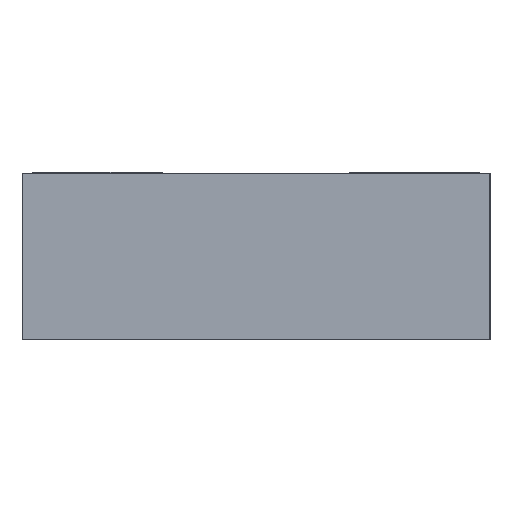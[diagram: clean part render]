
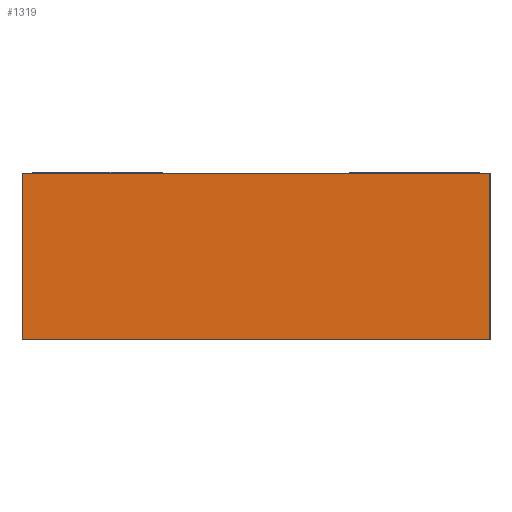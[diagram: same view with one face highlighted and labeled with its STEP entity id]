
A CAD part, left-side view. The second image highlights one B-rep face of the part: STEP entity #1319.
In plain terms, the highlighted planar face has unit normal (-1, 0, 0).
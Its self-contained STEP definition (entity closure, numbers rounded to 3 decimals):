
#18=DIRECTION('',(0.,-1.,0.));
#19=VECTOR('',#18,9.);
#20=CARTESIAN_POINT('',(-18.,4.5,0.));
#21=LINE('',#20,#19);
#47=DIRECTION('',(0.,0.,1.));
#48=VECTOR('',#47,3.2);
#49=CARTESIAN_POINT('',(-18.,4.5,0.));
#50=LINE('',#49,#48);
#68=DIRECTION('',(0.,0.,1.));
#69=VECTOR('',#68,3.2);
#70=CARTESIAN_POINT('',(-18.,-4.5,0.));
#71=LINE('',#70,#69);
#75=DIRECTION('',(0.,-1.,0.));
#76=VECTOR('',#75,9.);
#77=CARTESIAN_POINT('',(-18.,4.5,3.2));
#78=LINE('',#77,#76);
#1089=CARTESIAN_POINT('',(-18.,4.5,0.));
#1090=CARTESIAN_POINT('',(-18.,-4.5,0.));
#1091=VERTEX_POINT('',#1089);
#1092=VERTEX_POINT('',#1090);
#1097=CARTESIAN_POINT('',(-18.,4.5,3.2));
#1098=CARTESIAN_POINT('',(-18.,-4.5,3.2));
#1099=VERTEX_POINT('',#1097);
#1100=VERTEX_POINT('',#1098);
#1305=CARTESIAN_POINT('',(-18.,4.5,0.));
#1306=DIRECTION('',(1.,0.,0.));
#1307=DIRECTION('',(0.,-1.,0.));
#1308=AXIS2_PLACEMENT_3D('',#1305,#1306,#1307);
#1309=PLANE('',#1308);
#1310=ORIENTED_EDGE('',*,*,#1294,.F.);
#1312=ORIENTED_EDGE('',*,*,#1311,.T.);
#1314=ORIENTED_EDGE('',*,*,#1313,.T.);
#1316=ORIENTED_EDGE('',*,*,#1315,.F.);
#1317=EDGE_LOOP('',(#1310,#1312,#1314,#1316));
#1318=FACE_OUTER_BOUND('',#1317,.F.);
#1294=EDGE_CURVE('',#1091,#1092,#21,.T.);
#1311=EDGE_CURVE('',#1091,#1099,#50,.T.);
#1313=EDGE_CURVE('',#1099,#1100,#78,.T.);
#1315=EDGE_CURVE('',#1092,#1100,#71,.T.);
#1319=ADVANCED_FACE('',(#1318),#1309,.F.);
